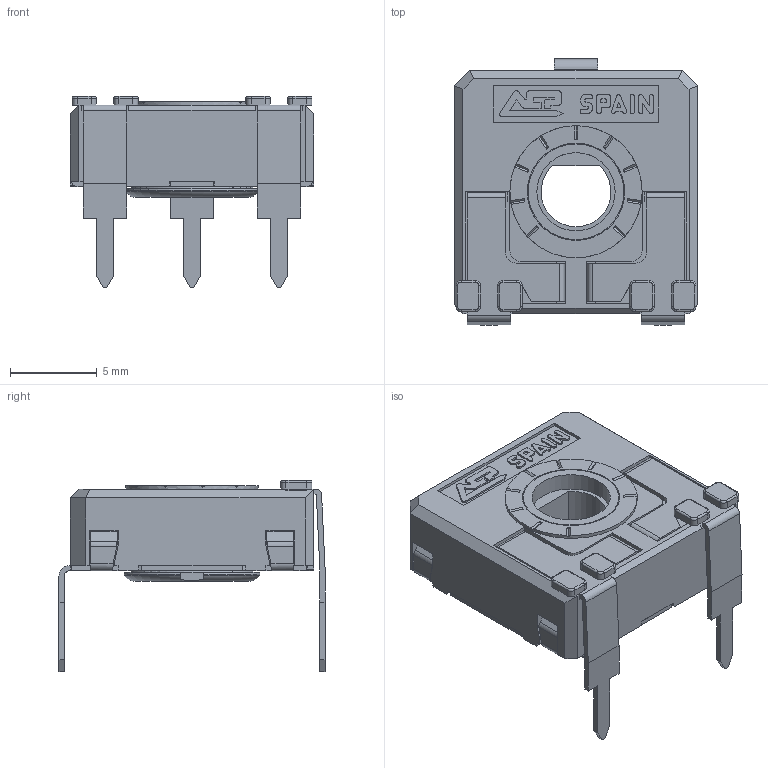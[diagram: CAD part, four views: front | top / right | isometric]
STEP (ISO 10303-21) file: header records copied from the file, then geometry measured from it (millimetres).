
FILE_DESCRIPTION(/* description */ (''),/* implementation_level */ '2;1');
FILE_NAME(/* name */ 'C:\Users\CEM\Desktop\ENVIAR\TRANSICION 3D CATALOGOS\RS14FV15 RT-RO.stp',/* time_stamp */ '2025-12-10T10:39:31+01:00',/* author */ ('CEM'),/* organization */ (''),/* preprocessor_version */ 'ST-DEVELOPER v16.13',/* originating_system */ 'Autodesk Inventor 2018',/* authorisation */ '');
FILE_SCHEMA (('AUTOMOTIVE_DESIGN { 1 0 10303 214 3 1 1 }'));
Length unit declared in the file: millimetre
Products named in the file (1): CARCASA CA14 PGA
Bounding box: 14 x 15.3 x 11 mm (x, y, z)
Volume: 530.4 mm3; surface area: 1478.3 mm2
Topology: 1 solids, 1 shells, 671 faces, 1888 edges, 1214 vertices
Faces by surface type: plane 496, cylinder 138, torus 23, bspline 8, cone 6
Full cylindrical faces by diameter (mm): 4.5 x1, 5.5 x1, 5.6 x1, 5.752 x1, 6.8 x1, 7.6 x1
Entity records: 21721 total; most frequent: CARTESIAN_POINT 3968, ORIENTED_EDGE 3748, DIRECTION 3536, EDGE_CURVE 1874, LINE 1484, VECTOR 1484, VERTEX_POINT 1210, AXIS2_PLACEMENT_3D 1026
